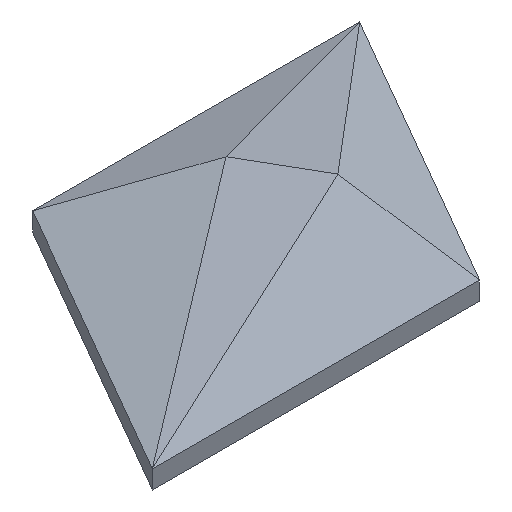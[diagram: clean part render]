
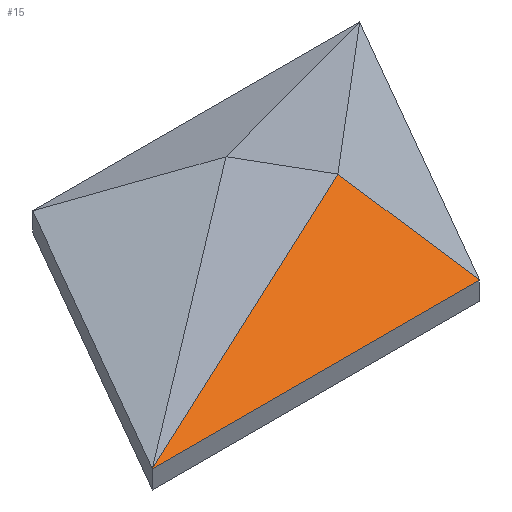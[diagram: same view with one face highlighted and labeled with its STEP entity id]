
A CAD part, isometric view. The second image highlights one B-rep face of the part: STEP entity #15.
In plain terms, the highlighted planar face has unit normal (0, -0.146, 0.989).
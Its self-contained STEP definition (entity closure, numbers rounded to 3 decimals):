
#15=ADVANCED_FACE('',(#26),#134,.T.);
#26=FACE_OUTER_BOUND('',#37,.T.);
#37=EDGE_LOOP('',(#48,#49,#50));
#48=ORIENTED_EDGE('',*,*,#86,.T.);
#49=ORIENTED_EDGE('',*,*,#88,.T.);
#50=ORIENTED_EDGE('',*,*,#87,.T.);
#86=EDGE_CURVE('',#124,#126,#105,.T.);
#87=EDGE_CURVE('',#125,#124,#106,.T.);
#88=EDGE_CURVE('',#126,#125,#107,.T.);
#105=B_SPLINE_CURVE_WITH_KNOTS('',1,(#214,#215),.UNSPECIFIED.,.F.,.F.,(2,
2),(0.,109.429),.UNSPECIFIED.);
#106=B_SPLINE_CURVE_WITH_KNOTS('',1,(#216,#217),.UNSPECIFIED.,.F.,.F.,(2,
2),(382.33,632.33),.UNSPECIFIED.);
#107=B_SPLINE_CURVE_WITH_KNOTS('',1,(#218,#219),.UNSPECIFIED.,.F.,.F.,(2,
2),(109.429,382.33),.UNSPECIFIED.);
#124=VERTEX_POINT('',#204);
#125=VERTEX_POINT('',#205);
#126=VERTEX_POINT('',#206);
#134=PLANE('',#165);
#165=AXIS2_PLACEMENT_3D('',#193,#179,$);
#179=DIRECTION('',(0.,-0.146,0.989));
#193=CARTESIAN_POINT('',(252.098,110.244,30.294));
#204=CARTESIAN_POINT('',(250.,0.,14.));
#205=CARTESIAN_POINT('',(0.,0.,14.));
#206=CARTESIAN_POINT('',(250.,108.253,30.));
#214=CARTESIAN_POINT('',(250.,0.,14.));
#215=CARTESIAN_POINT('',(250.,108.253,30.));
#216=CARTESIAN_POINT('',(0.,0.,14.));
#217=CARTESIAN_POINT('',(250.,0.,14.));
#218=CARTESIAN_POINT('',(250.,108.253,30.));
#219=CARTESIAN_POINT('',(0.,0.,14.));
